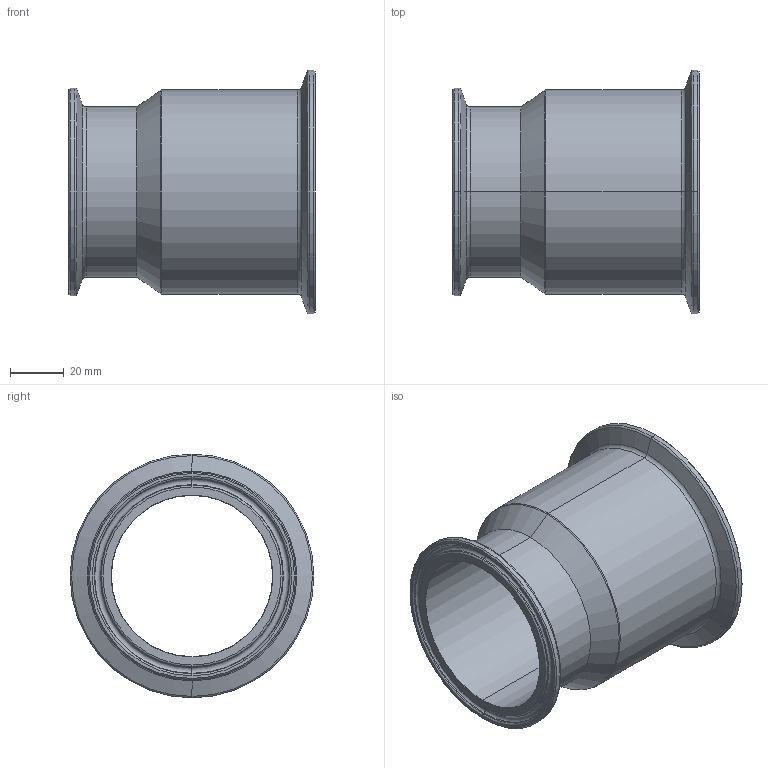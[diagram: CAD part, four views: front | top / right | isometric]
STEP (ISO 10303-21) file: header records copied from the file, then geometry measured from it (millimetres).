
FILE_DESCRIPTION (( 'STEP AP214' ), '1' );
FILE_NAME ('TEG31SCC6I3.0x2.5.STEP', '2016-05-29T14:45:08', ( 'eran' ), ( '' ), 'SwSTEP 2.0', 'SolidWorks 2016', '' );
FILE_SCHEMA (( 'AUTOMOTIVE_DESIGN' ));
Length unit declared in the file: millimetre
Products named in the file (1): TEG31SCC6I3.0x2.5
Bounding box: 92.08 x 91 x 91 mm (x, y, z)
Volume: 108754.7 mm3; surface area: 47012.1 mm2
Topology: 1 solids, 1 shells, 64 faces, 128 edges, 68 vertices
Faces by surface type: cone 24, torus 24, cylinder 12, plane 4
Entity records: 1686 total; most frequent: DIRECTION 350, CARTESIAN_POINT 261, ORIENTED_EDGE 256, AXIS2_PLACEMENT_3D 157, EDGE_CURVE 128, CIRCLE 92, VERTEX_POINT 68, EDGE_LOOP 68
